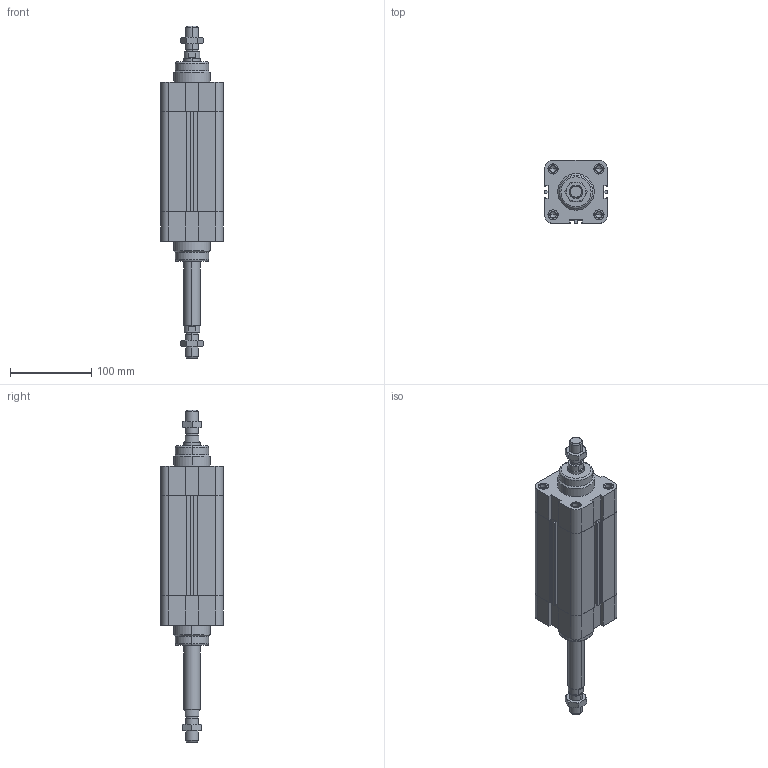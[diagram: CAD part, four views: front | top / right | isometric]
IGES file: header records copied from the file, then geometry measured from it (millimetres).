
Global section: file name: No Iges File Name specified; native system: Autodesk Inventor 2010; preprocessor: AutoDesk Inventor Iges Exporter R2010; author: rivolro1; date: 20090707.105750; units: millimetre
Bounding box: 77.5 x 77.5 x 409 mm (x, y, z)
Volume: 1018560.6 mm3; surface area: 183719 mm2
Topology: 6 solids, 6 shells, 343 faces, 810 edges, 508 vertices
Faces by surface type: plane 137, bspline 86, cylinder 58, cone 38, revolution 20, torus 4
